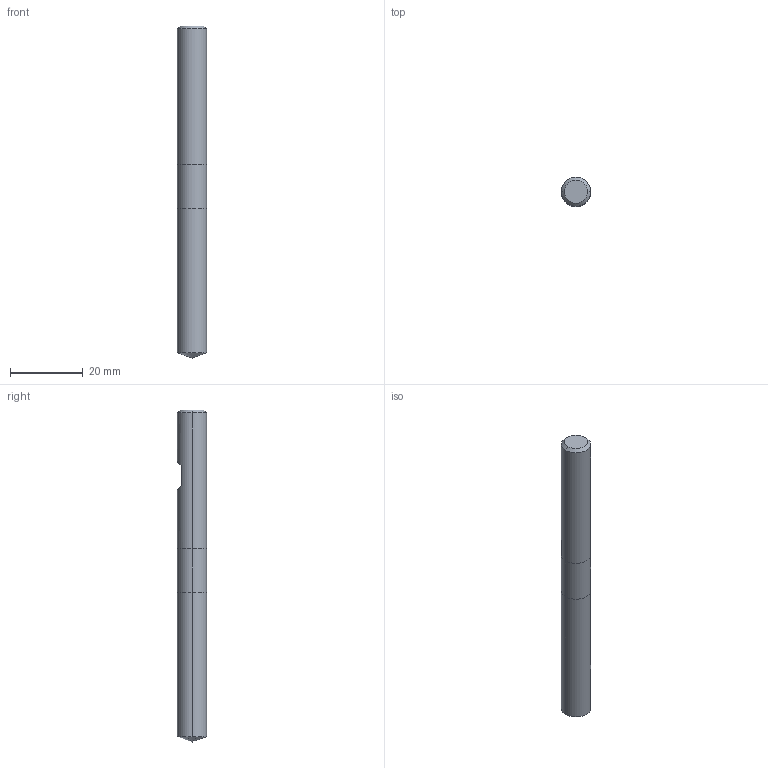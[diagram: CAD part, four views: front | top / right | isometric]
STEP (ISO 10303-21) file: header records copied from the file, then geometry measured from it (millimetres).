
FILE_DESCRIPTION (( 'STEP AP214' ), '1' );
FILE_NAME ('711.081.10_3D-model.step', '2022-02-22T18:20:34', ( '' ), ( '' ), 'SwSTEP 2.0', 'SolidWorks 2020', '' );
FILE_SCHEMA (( 'AUTOMOTIVE_DESIGN' ));
Length unit declared in the file: millimetre
Products named in the file (3): 711.081.10_3D-model; CUT-3D^Baugr42; NOCUT-3D^Baugr42
Assembly tree (2 placements, depth 2):
  711.081.10_3D-model
    CUT-3D^Baugr42
    NOCUT-3D^Baugr42
Bounding box: 8.01 x 8.01 x 91 mm (x, y, z)
Volume: 4497.7 mm3; surface area: 2444.1 mm2
Topology: 2 solids, 2 shells, 17 faces, 32 edges, 19 vertices
Faces by surface type: plane 7, cylinder 6, cone 4
Entity records: 536 total; most frequent: DIRECTION 92, CARTESIAN_POINT 80, ORIENTED_EDGE 60, AXIS2_PLACEMENT_3D 39, EDGE_CURVE 30, VERTEX_POINT 19, EDGE_LOOP 19, ADVANCED_FACE 17
